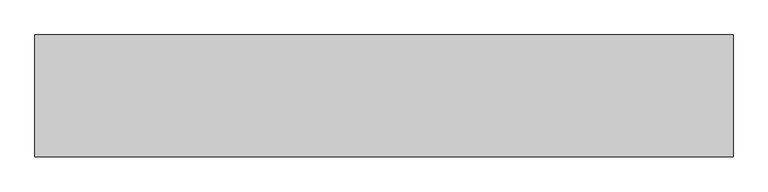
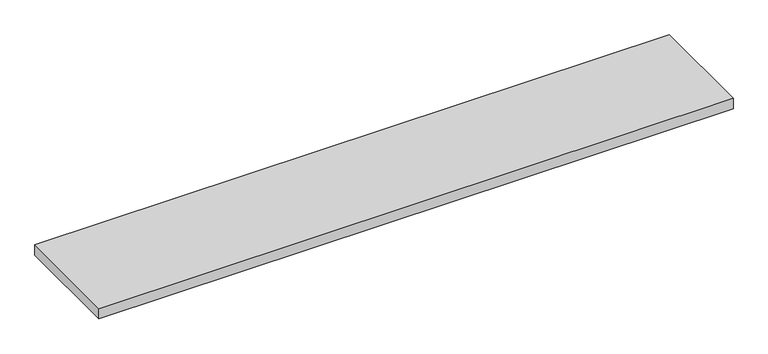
"""IFC4 building model written with IfcOpenShell, lengths in millimetres: proxy geometry, Vita_Решетка : РАП_Алюминиевая продольная."""

from ifc_helpers import new_model, si_unit, frame, origin, place, context, project, spatial, polyline, outline, extrude, source, transform, mapped, element, save


def mechanical_equipment_9ef73769(model_context):
    return source(origin(), model_context, "Body", "SweptSolid", [
        extrude(outline(polyline([(-599.0, -112.8), (599.0, -112.8), (599.0, -322.2), (-599.0, -322.2), (-599.0, -112.8)])), frame((0.0, 0.0, 479.83), z_axis=(0.0, 0.0, 1.0), x_axis=(1.0, 0.0, 0.0)), (0.0, 0.0, 1.0), 20.17),
    ])


if __name__ == "__main__":
    model = new_model("IFC4")
    model_context = context("Model", 3, world=origin())
    ifc_project = project(units=[si_unit("LENGTHUNIT", "METRE", prefix="MILLI")], contexts=[model_context])
    site = spatial("IfcSite", under=ifc_project)
    building = spatial("IfcBuilding", under=site)
    placement = place(None, origin())
    mechanical_equipment_shape = mechanical_equipment_9ef73769(model_context)
    element("IfcBuildingElementProxy", 1, Name="Vita_Решетка : РАП_Алюминиевая продольная", ObjectType="Vita_Решетка : РАП_Алюминиевая продольная", at=placement, inside=building, context=model_context, shape_type="MappedRepresentation", body=[
        mapped(mechanical_equipment_shape, transform((0.0, 0.0, 0.0), x_axis=(1.0, 0.0, 0.0), y_axis=(0.0, 1.0, 0.0), z_axis=(0.0, 0.0, 1.0))),
    ])
    save(model, "model.ifc")
